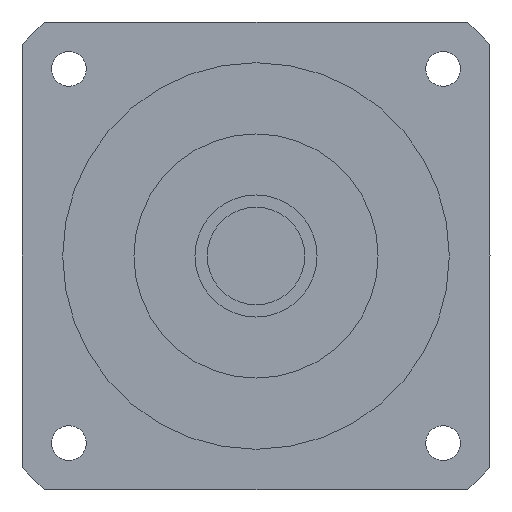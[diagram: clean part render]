
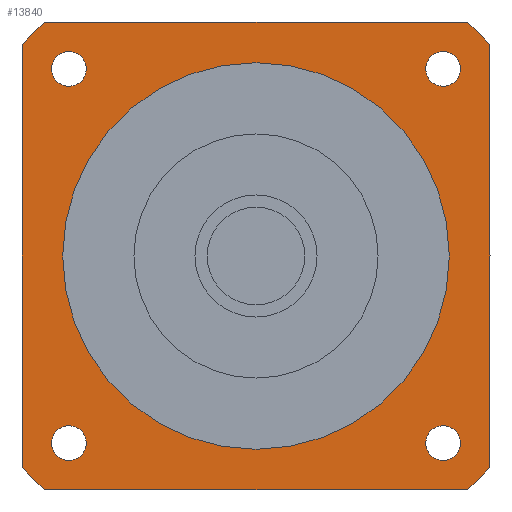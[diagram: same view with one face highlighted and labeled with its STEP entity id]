
A CAD part, left-side view. The second image highlights one B-rep face of the part: STEP entity #13840.
In plain terms, the highlighted planar face has unit normal (-1, 0, 0) as drawn and (0, 0, -1) by its records, which use the part's own axes.
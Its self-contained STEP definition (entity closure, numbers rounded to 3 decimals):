
#11030=CARTESIAN_POINT('',(-51.962,57.5,-66.4));
#11040=VERTEX_POINT('',#11030);
#11070=CARTESIAN_POINT('',(-57.5,57.5,-66.4));
#11080=DIRECTION('',(1.,0.,0.));
#11090=VECTOR('',#11080,1000.);
#11100=LINE('',#11070,#11090);
#11110=CARTESIAN_POINT('',(51.962,57.5,-66.4));
#11120=VERTEX_POINT('',#11110);
#11130=EDGE_CURVE('',#11040,#11120,#11100,.T.);
#11360=CARTESIAN_POINT('',(-57.5,51.962,-66.4));
#11370=VERTEX_POINT('',#11360);
#11400=CARTESIAN_POINT('',(0.,0.,
-66.4));
#11410=DIRECTION('',(0.,0.,-1.));
#11420=DIRECTION('',(1.,0.,0.));
#11430=AXIS2_PLACEMENT_3D('',#11400,#11410,#11420);
#11440=CIRCLE('',#11430,77.5);
#11450=EDGE_CURVE('',#11370,#11040,#11440,.T.);
#11590=CARTESIAN_POINT('',(-51.962,-57.5,-66.4));
#11600=VERTEX_POINT('',#11590);
#11630=CARTESIAN_POINT('',(0.,0.,
-66.4));
#11640=DIRECTION('',(0.,0.,-1.));
#11650=DIRECTION('',(1.,0.,0.));
#11660=AXIS2_PLACEMENT_3D('',#11630,#11640,#11650);
#11670=CIRCLE('',#11660,77.5);
#11680=CARTESIAN_POINT('',(-57.5,-51.962,-66.4));
#11690=VERTEX_POINT('',#11680);
#11700=EDGE_CURVE('',#11600,#11690,#11670,.T.);
#11910=CARTESIAN_POINT('',(51.962,-57.5,-66.4));
#11920=VERTEX_POINT('',#11910);
#11950=CARTESIAN_POINT('',(57.5,-57.5,-66.4));
#11960=DIRECTION('',(-1.,0.,0.));
#11970=VECTOR('',#11960,1000.);
#11980=LINE('',#11950,#11970);
#11990=EDGE_CURVE('',#11920,#11600,#11980,.T.);
#12120=CARTESIAN_POINT('',(-57.5,-57.5,-66.4));
#12130=DIRECTION('',(0.,1.,0.));
#12140=VECTOR('',#12130,1000.);
#12150=LINE('',#12120,#12140);
#12160=EDGE_CURVE('',#11690,#11370,#12150,.T.);
#12290=CARTESIAN_POINT('',(0.,0.,
-66.4));
#12300=DIRECTION('',(0.,0.,-1.));
#12310=DIRECTION('',(1.,0.,0.));
#12320=AXIS2_PLACEMENT_3D('',#12290,#12300,#12310);
#12330=CIRCLE('',#12320,77.5);
#12340=CARTESIAN_POINT('',(57.5,51.962,-66.4));
#12350=VERTEX_POINT('',#12340);
#12360=EDGE_CURVE('',#11120,#12350,#12330,.T.);
#12570=CARTESIAN_POINT('',(57.5,-51.962,-66.4));
#12580=VERTEX_POINT('',#12570);
#12610=CARTESIAN_POINT('',(0.,0.,
-66.4));
#12620=DIRECTION('',(0.,0.,-1.));
#12630=DIRECTION('',(1.,0.,0.));
#12640=AXIS2_PLACEMENT_3D('',#12610,#12620,#12630);
#12650=CIRCLE('',#12640,77.5);
#12660=EDGE_CURVE('',#12580,#11920,#12650,.T.);
#12790=CARTESIAN_POINT('',(57.5,57.5,-66.4));
#12800=DIRECTION('',(0.,-1.,0.));
#12810=VECTOR('',#12800,1000.);
#12820=LINE('',#12790,#12810);
#12830=EDGE_CURVE('',#12350,#12580,#12820,.T.);
#12900=CARTESIAN_POINT('',(57.5,57.5,-66.4));
#12910=DIRECTION('',(0.,0.,-1.));
#12920=DIRECTION('',(1.,0.,0.));
#12930=AXIS2_PLACEMENT_3D('',#12900,#12910,#12920);
#12940=PLANE('',#12930);
#12950=CARTESIAN_POINT('',(-45.962,-45.962,-66.4));
#12960=DIRECTION('',(0.,0.,-1.));
#12970=DIRECTION('',(0.,-1.,0.));
#12980=AXIS2_PLACEMENT_3D('',#12950,#12960,#12970);
#12990=CIRCLE('',#12980,4.25);
#13000=CARTESIAN_POINT('',(-45.962,-50.212,-66.4));
#13010=VERTEX_POINT('',#13000);
#13020=CARTESIAN_POINT('',(-45.962,-41.712,-66.4));
#13030=VERTEX_POINT('',#13020);
#13040=EDGE_CURVE('',#13010,#13030,#12990,.T.);
#13050=ORIENTED_EDGE('',*,*,#13040,.F.);
#13060=EDGE_CURVE('',#13030,#13010,#12990,.T.);
#13070=ORIENTED_EDGE('',*,*,#13060,.F.);
#13080=EDGE_LOOP('',(#13070,#13050));
#13090=FACE_BOUND('',#13080,.T.);
#13100=CARTESIAN_POINT('',(-45.962,45.962,-66.4));
#13110=DIRECTION('',(0.,0.,-1.));
#13120=DIRECTION('',(-1.,0.,0.));
#13130=AXIS2_PLACEMENT_3D('',#13100,#13110,#13120);
#13140=CIRCLE('',#13130,4.25);
#13150=CARTESIAN_POINT('',(-50.212,45.962,-66.4));
#13160=VERTEX_POINT('',#13150);
#13170=CARTESIAN_POINT('',(-41.712,45.962,-66.4));
#13180=VERTEX_POINT('',#13170);
#13190=EDGE_CURVE('',#13160,#13180,#13140,.T.);
#13200=ORIENTED_EDGE('',*,*,#13190,.F.);
#13210=EDGE_CURVE('',#13180,#13160,#13140,.T.);
#13220=ORIENTED_EDGE('',*,*,#13210,.F.);
#13230=EDGE_LOOP('',(#13220,#13200));
#13240=FACE_BOUND('',#13230,.T.);
#13250=CARTESIAN_POINT('',(45.962,45.962,-66.4));
#13260=DIRECTION('',(0.,0.,-1.));
#13270=DIRECTION('',(0.,1.,0.));
#13280=AXIS2_PLACEMENT_3D('',#13250,#13260,#13270);
#13290=CIRCLE('',#13280,4.25);
#13300=CARTESIAN_POINT('',(45.962,50.212,-66.4));
#13310=VERTEX_POINT('',#13300);
#13320=CARTESIAN_POINT('',(45.962,41.712,-66.4));
#13330=VERTEX_POINT('',#13320);
#13340=EDGE_CURVE('',#13310,#13330,#13290,.T.);
#13350=ORIENTED_EDGE('',*,*,#13340,.F.);
#13360=EDGE_CURVE('',#13330,#13310,#13290,.T.);
#13370=ORIENTED_EDGE('',*,*,#13360,.F.);
#13380=EDGE_LOOP('',(#13370,#13350));
#13390=FACE_BOUND('',#13380,.T.);
#13400=CARTESIAN_POINT('',(0.,0.,
-66.4));
#13410=DIRECTION('',(0.,0.,1.));
#13420=DIRECTION('',(0.,1.,0.));
#13430=AXIS2_PLACEMENT_3D('',#13400,#13410,#13420);
#13440=CIRCLE('',#13430,47.5);
#13450=CARTESIAN_POINT('',(-47.5,0.,-66.4));
#13460=VERTEX_POINT('',#13450);
#13470=CARTESIAN_POINT('',(47.5,0.,-66.4));
#13480=VERTEX_POINT('',#13470);
#13490=EDGE_CURVE('',#13460,#13480,#13440,.T.);
#13500=ORIENTED_EDGE('',*,*,#13490,.T.);
#13510=CARTESIAN_POINT('',(0.,47.5,-66.4));
#13520=VERTEX_POINT('',#13510);
#13530=EDGE_CURVE('',#13520,#13460,#13440,.T.);
#13540=ORIENTED_EDGE('',*,*,#13530,.T.);
#13550=EDGE_CURVE('',#13480,#13520,#13440,.T.);
#13560=ORIENTED_EDGE('',*,*,#13550,.T.);
#13570=EDGE_LOOP('',(#13560,#13540,#13500));
#13580=FACE_BOUND('',#13570,.T.);
#13590=ORIENTED_EDGE('',*,*,#11130,.T.);
#13600=ORIENTED_EDGE('',*,*,#11450,.T.);
#13610=ORIENTED_EDGE('',*,*,#12160,.T.);
#13620=ORIENTED_EDGE('',*,*,#11700,.T.);
#13630=ORIENTED_EDGE('',*,*,#11990,.T.);
#13640=ORIENTED_EDGE('',*,*,#12660,.T.);
#13650=ORIENTED_EDGE('',*,*,#12830,.T.);
#13660=ORIENTED_EDGE('',*,*,#12360,.T.);
#13670=EDGE_LOOP('',(#13660,#13650,#13640,#13630,#13620,#13610,#13600,
#13590));
#13680=FACE_OUTER_BOUND('',#13670,.T.);
#13690=CARTESIAN_POINT('',(45.962,-45.962,-66.4));
#13700=DIRECTION('',(0.,0.,-1.));
#13710=DIRECTION('',(1.,0.,0.));
#13720=AXIS2_PLACEMENT_3D('',#13690,#13700,#13710);
#13730=CIRCLE('',#13720,4.25);
#13740=CARTESIAN_POINT('',(50.212,-45.962,-66.4));
#13750=VERTEX_POINT('',#13740);
#13760=CARTESIAN_POINT('',(41.712,-45.962,-66.4));
#13770=VERTEX_POINT('',#13760);
#13780=EDGE_CURVE('',#13750,#13770,#13730,.T.);
#13790=ORIENTED_EDGE('',*,*,#13780,.F.);
#13800=EDGE_CURVE('',#13770,#13750,#13730,.T.);
#13810=ORIENTED_EDGE('',*,*,#13800,.F.);
#13820=EDGE_LOOP('',(#13810,#13790));
#13830=FACE_BOUND('',#13820,.T.);
#13840=ADVANCED_FACE('',(#13090,#13240,#13390,#13580,#13680,#13830),
#12940,.T.);
